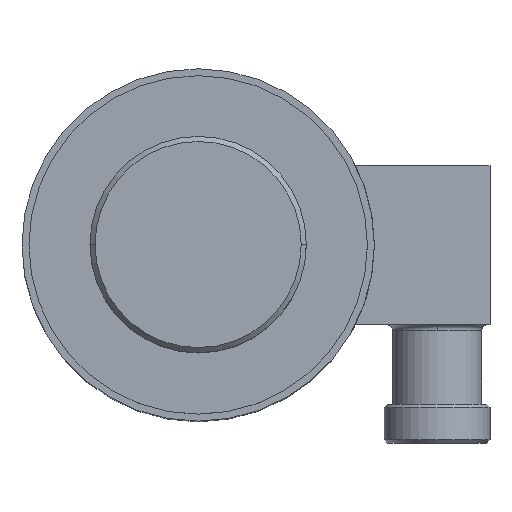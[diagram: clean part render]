
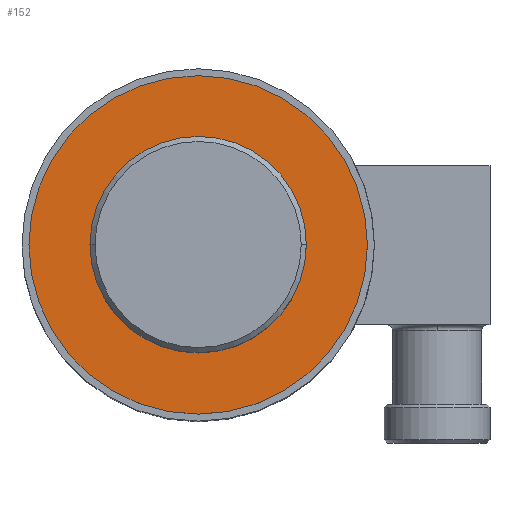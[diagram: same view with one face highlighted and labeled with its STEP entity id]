
A CAD part, top view. The second image highlights one B-rep face of the part: STEP entity #152.
In plain terms, the highlighted planar face has unit normal (0, 0, 1).
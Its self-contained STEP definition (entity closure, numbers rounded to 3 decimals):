
#152=ADVANCED_FACE('',(#290,#291),#292,.T.);
#290=FACE_BOUND('',#434,.T.);
#291=FACE_OUTER_BOUND('',#435,.T.);
#292=PLANE('',#436);
#434=EDGE_LOOP('',(#884,#885));
#435=EDGE_LOOP('',(#886,#887));
#436=AXIS2_PLACEMENT_3D('',#888,#889,#890);
#884=ORIENTED_EDGE('',*,*,#1038,.T.);
#885=ORIENTED_EDGE('',*,*,#978,.T.);
#886=ORIENTED_EDGE('',*,*,#963,.T.);
#887=ORIENTED_EDGE('',*,*,#1044,.T.);
#888=CARTESIAN_POINT('',(0.0,0.0,80.0));
#889=DIRECTION('',(0.0,0.0,1.0));
#890=DIRECTION('',(1.0,0.0,0.0));
#963=EDGE_CURVE('',#1125,#1129,#1131,.T.);
#978=EDGE_CURVE('',#1158,#1155,#1159,.T.);
#1038=EDGE_CURVE('',#1155,#1158,#1253,.T.);
#1044=EDGE_CURVE('',#1129,#1125,#1259,.T.);
#1125=VERTEX_POINT('',#1356);
#1129=VERTEX_POINT('',#1361);
#1131=CIRCLE('',#1364,30.5);
#1155=VERTEX_POINT('',#1396);
#1158=VERTEX_POINT('',#1400);
#1159=CIRCLE('',#1401,18.0);
#1253=CIRCLE('',#1521,18.0);
#1259=CIRCLE('',#1527,30.5);
#1356=CARTESIAN_POINT('',(30.5,0.0,80.0));
#1361=CARTESIAN_POINT('',(-30.5,0.,80.0));
#1364=AXIS2_PLACEMENT_3D('',#1636,#1637,#1638);
#1396=CARTESIAN_POINT('',(18.0,0.0,80.0));
#1400=CARTESIAN_POINT('',(-18.0,0.,80.0));
#1401=AXIS2_PLACEMENT_3D('',#1663,#1664,#1665);
#1521=AXIS2_PLACEMENT_3D('',#1791,#1792,#1793);
#1527=AXIS2_PLACEMENT_3D('',#1809,#1810,#1811);
#1636=CARTESIAN_POINT('',(0.0,0.0,80.0));
#1637=DIRECTION('',(0.0,0.0,1.0));
#1638=DIRECTION('',(1.0,0.0,0.0));
#1663=CARTESIAN_POINT('',(0.0,0.0,80.0));
#1664=DIRECTION('',(0.0,0.0,-1.0));
#1665=DIRECTION('',(1.0,0.0,0.0));
#1791=CARTESIAN_POINT('',(0.0,0.0,80.0));
#1792=DIRECTION('',(0.0,0.0,-1.0));
#1793=DIRECTION('',(1.0,0.0,0.0));
#1809=CARTESIAN_POINT('',(0.0,0.0,80.0));
#1810=DIRECTION('',(0.0,0.0,1.0));
#1811=DIRECTION('',(1.0,0.0,0.0));
